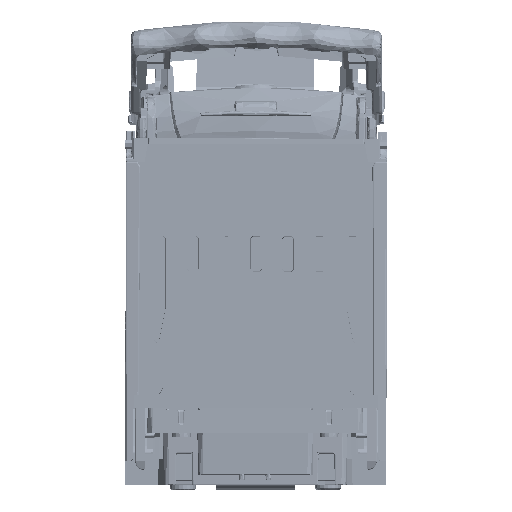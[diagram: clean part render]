
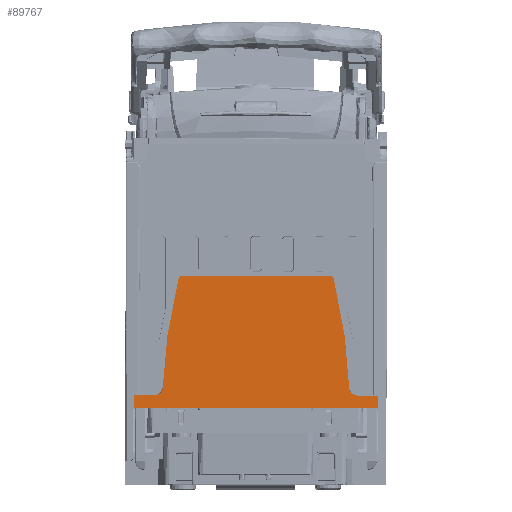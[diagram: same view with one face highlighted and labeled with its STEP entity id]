
A CAD part, left-side view. The second image highlights one B-rep face of the part: STEP entity #89767.
In plain terms, the highlighted planar face has unit normal (-1, 0, 0).
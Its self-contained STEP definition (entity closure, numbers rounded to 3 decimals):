
#60667=CIRCLE('',#290683,3.);
#60668=CIRCLE('',#290685,3.);
#60669=CIRCLE('',#290688,0.5);
#60670=CIRCLE('',#290690,0.5);
#75071=FACE_OUTER_BOUND('',#109661,.T.);
#89767=ADVANCED_FACE('',(#75071),#102441,.F.);
#102441=PLANE('',#291802);
#109661=EDGE_LOOP('',(#134059,#134060,#134061,#134062,#134063,#134064,#134065,
#134066,#134067,#134068,#134069,#134070,#134071,#134072));
#134059=ORIENTED_EDGE('',*,*,#223357,.T.);
#134060=ORIENTED_EDGE('',*,*,#223368,.F.);
#134061=ORIENTED_EDGE('',*,*,#223359,.T.);
#134062=ORIENTED_EDGE('',*,*,#223367,.F.);
#134063=ORIENTED_EDGE('',*,*,#223362,.T.);
#134064=ORIENTED_EDGE('',*,*,#223366,.F.);
#134065=ORIENTED_EDGE('',*,*,#223369,.T.);
#134066=ORIENTED_EDGE('',*,*,#223352,.F.);
#134067=ORIENTED_EDGE('',*,*,#223370,.T.);
#134068=ORIENTED_EDGE('',*,*,#223284,.T.);
#134069=ORIENTED_EDGE('',*,*,#220390,.F.);
#134070=ORIENTED_EDGE('',*,*,#223381,.F.);
#134071=ORIENTED_EDGE('',*,*,#223439,.T.);
#134072=ORIENTED_EDGE('',*,*,#223355,.F.);
#197206=VERTEX_POINT('',#361388);
#197207=VERTEX_POINT('',#361390);
#199392=VERTEX_POINT('',#375823);
#199407=VERTEX_POINT('',#376758);
#199408=VERTEX_POINT('',#376760);
#199409=VERTEX_POINT('',#376764);
#199410=VERTEX_POINT('',#376766);
#199411=VERTEX_POINT('',#376770);
#199412=VERTEX_POINT('',#376774);
#199413=VERTEX_POINT('',#376775);
#199414=VERTEX_POINT('',#376780);
#199415=VERTEX_POINT('',#376781);
#199416=VERTEX_POINT('',#376786);
#199419=VERTEX_POINT('',#376871);
#220390=EDGE_CURVE('',#197206,#197207,#256785,.T.);
#223284=EDGE_CURVE('',#199392,#197207,#258079,.T.);
#223352=EDGE_CURVE('',#199407,#199408,#60667,.T.);
#223355=EDGE_CURVE('',#199409,#199410,#60668,.T.);
#223357=EDGE_CURVE('',#199409,#199411,#258127,.T.);
#223359=EDGE_CURVE('',#199412,#199413,#60669,.T.);
#223362=EDGE_CURVE('',#199414,#199415,#60670,.T.);
#223366=EDGE_CURVE('',#199416,#199415,#258134,.T.);
#223367=EDGE_CURVE('',#199414,#199413,#258135,.T.);
#223368=EDGE_CURVE('',#199412,#199411,#258136,.T.);
#223369=EDGE_CURVE('',#199416,#199408,#258137,.T.);
#223370=EDGE_CURVE('',#199407,#199392,#258138,.T.);
#223381=EDGE_CURVE('',#199419,#197206,#258146,.T.);
#223439=EDGE_CURVE('',#199419,#199410,#258181,.T.);
#256785=LINE('',#361389,#273319);
#258079=LINE('',#375822,#274613);
#258127=LINE('',#376769,#274661);
#258134=LINE('',#376787,#274668);
#258135=LINE('',#376789,#274669);
#258136=LINE('',#376791,#274670);
#258137=LINE('',#376793,#274671);
#258138=LINE('',#376795,#274672);
#258146=LINE('',#376872,#274680);
#258181=LINE('',#378009,#274715);
#273319=VECTOR('',#307130,1.);
#274613=VECTOR('',#311314,1.);
#274661=VECTOR('',#311460,1.);
#274668=VECTOR('',#311477,1.);
#274669=VECTOR('',#311480,1.);
#274670=VECTOR('',#311483,1.);
#274671=VECTOR('',#311486,1.);
#274672=VECTOR('',#311489,1.);
#274680=VECTOR('',#311509,1.);
#274715=VECTOR('',#311630,1.);
#290683=AXIS2_PLACEMENT_3D('',#376759,#311449,#311450);
#290685=AXIS2_PLACEMENT_3D('',#376765,#311455,#311456);
#290688=AXIS2_PLACEMENT_3D('',#376773,#311464,#311465);
#290690=AXIS2_PLACEMENT_3D('',#376779,#311470,#311471);
#291802=AXIS2_PLACEMENT_3D('',#391032,#314757,#314758);
#307130=DIRECTION('',(0.,1.,0.002));
#311314=DIRECTION('',(0.,0.006,-1.));
#311449=DIRECTION('',(-1.,0.,0.));
#311450=DIRECTION('',(0.,1.,0.002));
#311455=DIRECTION('',(-1.,0.,0.));
#311456=DIRECTION('',(0.,1.,0.002));
#311460=DIRECTION('',(0.,0.085,0.996));
#311464=DIRECTION('',(-1.,0.,0.));
#311465=DIRECTION('',(0.,1.,0.002));
#311470=DIRECTION('',(-1.,0.,0.));
#311471=DIRECTION('',(0.,1.,0.002));
#311477=DIRECTION('',(0.,-0.193,0.981));
#311480=DIRECTION('',(0.,-1.,-0.002));
#311483=DIRECTION('',(0.,-0.189,-0.982));
#311486=DIRECTION('',(0.,0.089,-0.996));
#311489=DIRECTION('',(0.,1.,0.002));
#311509=DIRECTION('',(0.,-0.003,-1.));
#311630=DIRECTION('',(0.,1.,0.002));
#314757=DIRECTION('',(1.,0.,0.));
#314758=DIRECTION('',(0.,-1.,-0.002));
#361388=CARTESIAN_POINT('',(-277.559,-46.679,29.156));
#361389=CARTESIAN_POINT('',(-277.56,-0.254,29.237));
#361390=CARTESIAN_POINT('',(-277.561,46.161,29.318));
#375822=CARTESIAN_POINT('',(-277.561,45.58,124.343));
#375823=CARTESIAN_POINT('',(-277.561,46.131,34.218));
#376758=CARTESIAN_POINT('',(-277.561,38.075,34.204));
#376759=CARTESIAN_POINT('',(-277.561,38.07,37.204));
#376760=CARTESIAN_POINT('',(-277.561,35.082,36.937));
#376764=CARTESIAN_POINT('',(-277.559,-35.616,36.814));
#376765=CARTESIAN_POINT('',(-277.559,-38.605,37.07));
#376766=CARTESIAN_POINT('',(-277.559,-38.6,34.07));
#376769=CARTESIAN_POINT('',(-277.559,-35.833,34.288));
#376770=CARTESIAN_POINT('',(-277.559,-33.912,56.688));
#376773=CARTESIAN_POINT('',(-277.56,-29.163,78.706));
#376774=CARTESIAN_POINT('',(-277.56,-29.654,78.801));
#376775=CARTESIAN_POINT('',(-277.56,-29.164,79.206));
#376779=CARTESIAN_POINT('',(-277.561,28.483,78.807));
#376780=CARTESIAN_POINT('',(-277.561,28.482,79.307));
#376781=CARTESIAN_POINT('',(-277.561,28.973,78.903));
#376786=CARTESIAN_POINT('',(-277.561,33.309,56.805));
#376787=CARTESIAN_POINT('',(-277.561,33.309,56.805));
#376789=CARTESIAN_POINT('',(-277.56,-0.341,79.257));
#376791=CARTESIAN_POINT('',(-277.559,-33.912,56.688));
#376793=CARTESIAN_POINT('',(-277.561,35.307,34.412));
#376795=CARTESIAN_POINT('',(-277.561,45.738,34.217));
#376871=CARTESIAN_POINT('',(-277.559,-46.666,34.056));
#376872=CARTESIAN_POINT('',(-277.559,-46.424,126.591));
#378009=CARTESIAN_POINT('',(-277.559,-46.262,34.057));
#391032=CARTESIAN_POINT('',(-277.56,-0.254,29.237));
